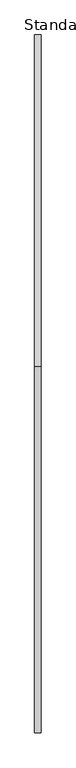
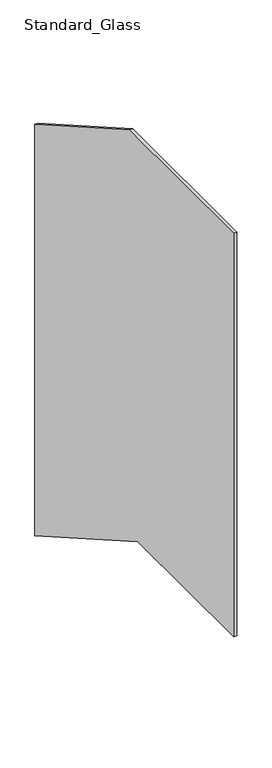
"""IFC4 building model written with IfcOpenShell, lengths in millimetres: railing geometry, Baluster-Landing-Panel-VIVA-VISIO-Lower : Standard_Glass."""

from ifc_helpers import new_model, si_unit, frame, origin, place, context, project, spatial, polyline, outline, extrude, source, transform, mapped, element, save


def standard_glass_04df66c8(model_context):
    return source(origin(), model_context, "Body", "SweptSolid", [
        extrude(outline(polyline([(-478.3569064, 1087.12), (5.0108793, 810.9644611), (5.0108793, -473.6129883), (-522.1421003, -172.4422867), (-1011.9470959, -172.4422867), (-1011.9470959, 1087.12), (-478.3569064, 1087.12)])), frame((33.3375, 0.0, 0.0), z_axis=(1.0, 0.0, 0.0), x_axis=(0.0, 1.0, 0.0)), (0.0, 0.0, 1.0), 9.525),
    ])


if __name__ == "__main__":
    model = new_model("IFC4")
    model_context = context("Model", 3, world=origin())
    ifc_project = project(units=[si_unit("LENGTHUNIT", "METRE", prefix="MILLI")], contexts=[model_context])
    site = spatial("IfcSite", under=ifc_project)
    building = spatial("IfcBuilding", under=site)
    placement = place(None, origin())
    standard_glass_shape = standard_glass_04df66c8(model_context)
    element("IfcRailing", 1, ObjectType="Baluster-Landing-Panel-VIVA-VISIO-Lower : Standard_Glass", at=placement, inside=building, context=model_context, shape_type="MappedRepresentation", body=[
        mapped(standard_glass_shape, transform((0.0, 0.0, 0.0), x_axis=(1.0, 0.0, 0.0), y_axis=(0.0, 1.0, 0.0), z_axis=(0.0, 0.0, 1.0))),
    ])
    save(model, "model.ifc")
